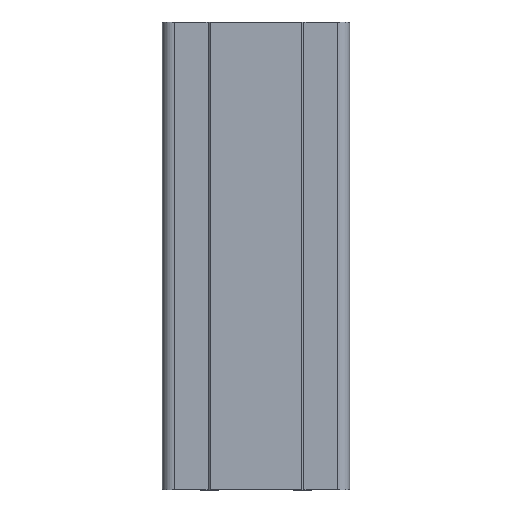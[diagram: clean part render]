
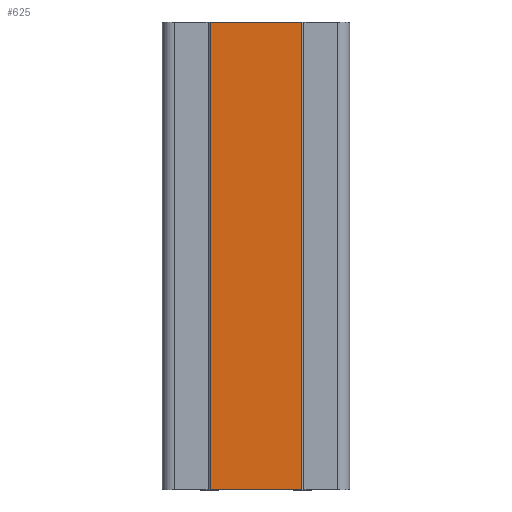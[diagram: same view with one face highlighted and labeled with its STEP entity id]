
A CAD part, top view. The second image highlights one B-rep face of the part: STEP entity #625.
In plain terms, the highlighted planar face has unit normal (0, 0, 1).
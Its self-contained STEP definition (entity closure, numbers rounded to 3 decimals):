
#43=ORIENTED_EDGE('',*,*,#175,.F.);
#44=ORIENTED_EDGE('',*,*,#176,.T.);
#45=ORIENTED_EDGE('',*,*,#177,.T.);
#46=ORIENTED_EDGE('',*,*,#178,.F.);
#175=EDGE_CURVE('',#241,#242,#285,.T.);
#176=EDGE_CURVE('',#241,#243,#286,.T.);
#177=EDGE_CURVE('',#243,#244,#287,.T.);
#178=EDGE_CURVE('',#242,#244,#288,.T.);
#241=VERTEX_POINT('',#829);
#242=VERTEX_POINT('',#830);
#243=VERTEX_POINT('',#832);
#244=VERTEX_POINT('',#834);
#285=LINE('',#828,#339);
#286=LINE('',#831,#340);
#287=LINE('',#833,#341);
#288=LINE('',#835,#342);
#339=VECTOR('',#699,1000.);
#340=VECTOR('',#700,1000.);
#341=VECTOR('',#701,1000.);
#342=VECTOR('',#702,1000.);
#390=EDGE_LOOP('',(#43,#44,#45,#46));
#414=FACE_BOUND('',#390,.T.);
#438=PLANE('',#654);
#625=ADVANCED_FACE('',(#414),#438,.T.);
#654=AXIS2_PLACEMENT_3D('',#827,#697,#698);
#697=DIRECTION('',(0.,0.,1.));
#698=DIRECTION('',(1.,0.,0.));
#699=DIRECTION('',(0.,-1.,0.));
#700=DIRECTION('',(-1.,0.,0.));
#701=DIRECTION('',(0.,-1.,0.));
#702=DIRECTION('',(-1.,0.,0.));
#827=CARTESIAN_POINT('',(40.,200.,2.5));
#828=CARTESIAN_POINT('',(19.5,215.574,2.5));
#829=CARTESIAN_POINT('',(19.5,200.,2.5));
#830=CARTESIAN_POINT('',(19.5,0.,2.5));
#831=CARTESIAN_POINT('',(40.,200.,2.5));
#832=CARTESIAN_POINT('',(-19.5,200.,2.5));
#833=CARTESIAN_POINT('',(-19.5,215.465,2.5));
#834=CARTESIAN_POINT('',(-19.5,0.,2.5));
#835=CARTESIAN_POINT('',(40.,0.,2.5));
